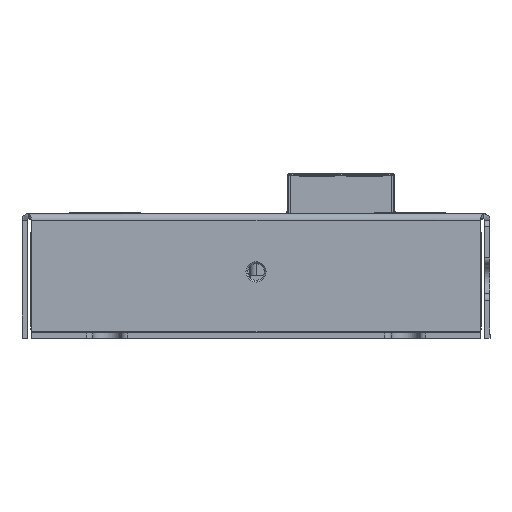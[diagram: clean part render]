
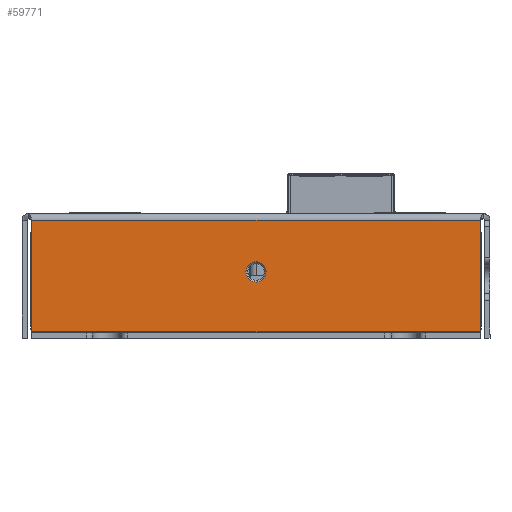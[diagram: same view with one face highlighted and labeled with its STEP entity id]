
A CAD part, front view. The second image highlights one B-rep face of the part: STEP entity #59771.
In plain terms, the highlighted planar face has unit normal (0, -1, 0).
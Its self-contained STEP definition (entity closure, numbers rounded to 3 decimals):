
#1082 = CARTESIAN_POINT ( 'NONE',  ( -33.793, -44.8, 17. ) ) ;
#4265 = CARTESIAN_POINT ( 'NONE',  ( 0., -44.8, 8. ) ) ;
#5112 = LINE ( 'NONE', #30410, #45357 ) ;
#5237 = EDGE_CURVE ( 'NONE', #29555, #32989, #57217, .T. ) ;
#6437 = CARTESIAN_POINT ( 'NONE',  ( 0., -44.8, 6.475 ) ) ;
#8315 = PLANE ( 'NONE',  #28978 ) ;
#11830 = CARTESIAN_POINT ( 'NONE',  ( -33.793, -44.8, 0.2 ) ) ;
#12713 = VECTOR ( 'NONE', #76309, 1000. ) ;
#12973 = EDGE_CURVE ( 'NONE', #27465, #56861, #33587, .T. ) ;
#14242 = CARTESIAN_POINT ( 'NONE',  ( 33.793, -44.8, 0.2 ) ) ;
#19055 = AXIS2_PLACEMENT_3D ( 'NONE', #32649, #72067, #52975 ) ;
#19538 = EDGE_LOOP ( 'NONE', ( #31535, #31754 ) ) ;
#19947 = DIRECTION ( 'NONE',  ( 0., 1., 0. ) ) ;
#20564 = VERTEX_POINT ( 'NONE', #1082 ) ;
#21180 = FACE_BOUND ( 'NONE', #19538, .T. ) ;
#25231 = AXIS2_PLACEMENT_3D ( 'NONE', #4265, #80174, #66894 ) ;
#25717 = CARTESIAN_POINT ( 'NONE',  ( 0., -44.8, 0.2 ) ) ;
#27378 = DIRECTION ( 'NONE',  ( 0., 0., 1. ) ) ;
#27465 = VERTEX_POINT ( 'NONE', #74617 ) ;
#28339 = CARTESIAN_POINT ( 'NONE',  ( 33.793, -44.8, 0. ) ) ;
#28978 = AXIS2_PLACEMENT_3D ( 'NONE', #64304, #19947, #27378 ) ;
#29555 = VERTEX_POINT ( 'NONE', #14242 ) ;
#30410 = CARTESIAN_POINT ( 'NONE',  ( -33.793, -44.8, 17. ) ) ;
#31535 = ORIENTED_EDGE ( 'NONE', *, *, #38602, .F. ) ;
#31754 = ORIENTED_EDGE ( 'NONE', *, *, #12973, .F. ) ;
#32649 = CARTESIAN_POINT ( 'NONE',  ( 0., -44.8, 8. ) ) ;
#32989 = VERTEX_POINT ( 'NONE', #11830 ) ;
#33587 = CIRCLE ( 'NONE', #19055, 1.525 ) ;
#36243 = ORIENTED_EDGE ( 'NONE', *, *, #80324, .F. ) ;
#38602 = EDGE_CURVE ( 'NONE', #56861, #27465, #66307, .T. ) ;
#40579 = DIRECTION ( 'NONE',  ( 0., 0., 1. ) ) ;
#40705 = EDGE_LOOP ( 'NONE', ( #59108, #36243, #60107, #70392 ) ) ;
#41712 = EDGE_CURVE ( 'NONE', #20564, #61550, #5112, .T. ) ;
#45101 = VECTOR ( 'NONE', #40579, 1000. ) ;
#45357 = VECTOR ( 'NONE', #55697, 1000. ) ;
#50466 = CARTESIAN_POINT ( 'NONE',  ( 33.793, -44.8, 17. ) ) ;
#52975 = DIRECTION ( 'NONE',  ( 0., 0., -1. ) ) ;
#53630 = LINE ( 'NONE', #28339, #55288 ) ;
#55288 = VECTOR ( 'NONE', #71486, 1000. ) ;
#55697 = DIRECTION ( 'NONE',  ( 1., 0., 0. ) ) ;
#56861 = VERTEX_POINT ( 'NONE', #6437 ) ;
#57217 = LINE ( 'NONE', #25717, #12713 ) ;
#58090 = FACE_OUTER_BOUND ( 'NONE', #40705, .T. ) ;
#59108 = ORIENTED_EDGE ( 'NONE', *, *, #41712, .F. ) ;
#59771 = ADVANCED_FACE ( 'NONE', ( #21180, #58090 ), #8315, .F. ) ;
#60107 = ORIENTED_EDGE ( 'NONE', *, *, #5237, .F. ) ;
#61550 = VERTEX_POINT ( 'NONE', #50466 ) ;
#64304 = CARTESIAN_POINT ( 'NONE',  ( 0., -44.8, 0. ) ) ;
#66307 = CIRCLE ( 'NONE', #25231, 1.525 ) ;
#66894 = DIRECTION ( 'NONE',  ( 0., 0., -1. ) ) ;
#70392 = ORIENTED_EDGE ( 'NONE', *, *, #76433, .T. ) ;
#71486 = DIRECTION ( 'NONE',  ( 0., 0., 1. ) ) ;
#72067 = DIRECTION ( 'NONE',  ( 0., -1., 0. ) ) ;
#72956 = CARTESIAN_POINT ( 'NONE',  ( -33.793, -44.8, 0. ) ) ;
#74617 = CARTESIAN_POINT ( 'NONE',  ( 0., -44.8, 9.525 ) ) ;
#76309 = DIRECTION ( 'NONE',  ( -1., 0., 0. ) ) ;
#76433 = EDGE_CURVE ( 'NONE', #29555, #61550, #53630, .T. ) ;
#78776 = LINE ( 'NONE', #72956, #45101 ) ;
#80174 = DIRECTION ( 'NONE',  ( 0., -1., 0. ) ) ;
#80324 = EDGE_CURVE ( 'NONE', #32989, #20564, #78776, .T. ) ;
